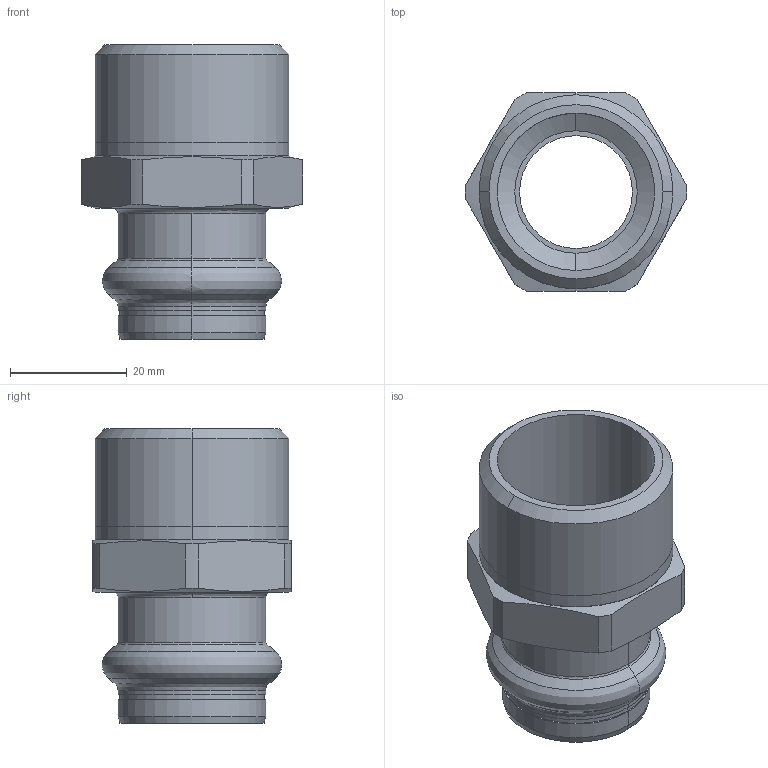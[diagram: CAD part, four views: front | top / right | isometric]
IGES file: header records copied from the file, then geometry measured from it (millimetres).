
Start section: Elysium IGES Interface
Global section: file name: C:\Users\Wallenburg\Desktop\3d modellen sudo\S-Pr VP\SP6243GV\6243GVW221.igs; native system: CoCreate Modeling 17.00A  17-Jun-2010; preprocessor: CoCreate IGES_3D V2.2; author: Unknown; organization: Unknown; date: 20130124.140807; units: millimetre
Bounding box: 37.99 x 34 x 50.5 mm (x, y, z)
Volume: 13692.2 mm3; surface area: 10144.1 mm2
Topology: 1 solids, 1 shells, 69 faces, 166 edges, 100 vertices
Faces by surface type: bspline 69
